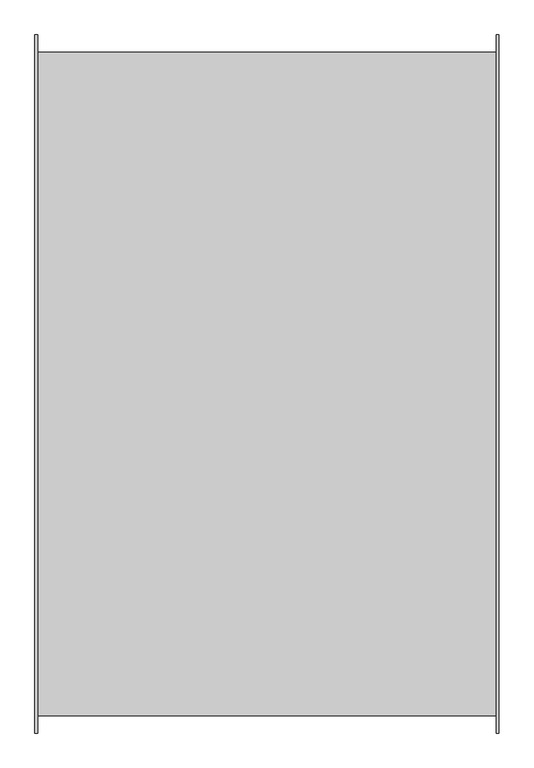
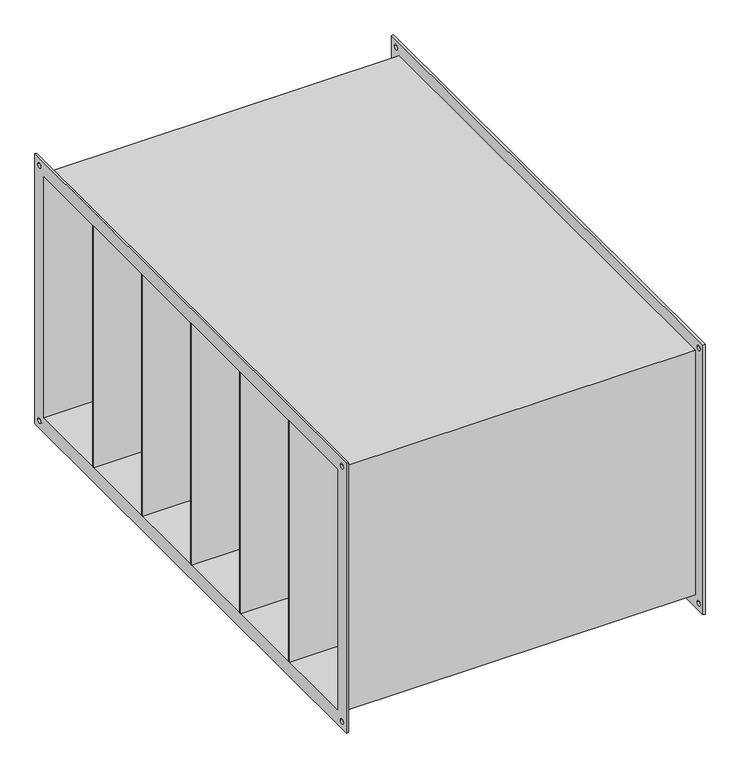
"""IFC4 building model written with IfcOpenShell, lengths in millimetres: damper geometry, СВ_ФильтрКарманный_КанальныйПрямоугольный_200-1000_SFPK : SFPK-1000x500."""

from ifc_helpers import new_model, si_unit, frame, origin, place, context, project, spatial, polyline, circle_curve, outline, extrude, source, transform, mapped, element, save
from ifc_brep_helpers import plane_surface, revolved_surface, advanced_brep


def damper_d678f62c(model_context):
    return source(origin(), model_context, "Body", "SolidModel", [
        extrude(outline(polyline([(352.5, 333.3333333), (352.5, 329.3333333), (-352.5, 329.3333333), (-352.5, 333.3333333), (352.5, 333.3333333)])), frame((0.0, 0.0, -250.0), z_axis=(0.0, 0.0, 1.0), x_axis=(1.0, 0.0, 0.0)), (0.0, 0.0, 1.0), 500.0),
        extrude(outline(polyline([(352.5, 166.6666667), (352.5, 162.6666667), (-352.5, 162.6666667), (-352.5, 166.6666667), (352.5, 166.6666667)])), frame((0.0, 0.0, -250.0), z_axis=(0.0, 0.0, 1.0), x_axis=(1.0, 0.0, 0.0)), (0.0, 0.0, 1.0), 500.0),
        extrude(outline(polyline([(352.5, 0.0), (352.5, -4.0), (-352.5, -4.0), (-352.5, 0.0), (352.5, 0.0)])), frame((0.0, 0.0, -250.0), z_axis=(0.0, 0.0, 1.0), x_axis=(1.0, 0.0, 0.0)), (0.0, 0.0, 1.0), 500.0),
        extrude(outline(polyline([(352.5, -166.6666667), (352.5, -170.6666667), (-352.5, -170.6666667), (-352.5, -166.6666667), (352.5, -166.6666667)])), frame((0.0, 0.0, -250.0), z_axis=(0.0, 0.0, 1.0), x_axis=(1.0, 0.0, 0.0)), (0.0, 0.0, 1.0), 500.0),
        extrude(outline(polyline([(352.5, -333.3333333), (352.5, -337.3333333), (-352.5, -337.3333333), (-352.5, -333.3333333), (352.5, -333.3333333)])), frame((0.0, 0.0, -250.0), z_axis=(0.0, 0.0, 1.0), x_axis=(1.0, 0.0, 0.0)), (0.0, 0.0, 1.0), 500.0),
        advanced_brep(
        [(348.5, -504.0, 254.0), (-348.5, -504.0, 254.0), (-348.5, -504.0, -254.0), (348.5, -504.0, -254.0), (-348.5, 504.0, -254.0), (348.5, 504.0, -254.0), (-348.5, 504.0, 254.0), (348.5, 504.0, 254.0), (-352.5, -530.0, 280.0), (-352.5, 530.0, 280.0), (-352.5, 530.0, -280.0), (-352.5, -530.0, -280.0), (-352.5, -500.0, 250.0), (-352.5, -500.0, -250.0), (-352.5, 500.0, -250.0), (-352.5, 500.0, 250.0), (-352.5, 510.0, 265.0), (-352.5, 520.0, 265.0), (-352.5, -520.0, 265.0), (-352.5, -510.0, 265.0), (-352.5, -520.0, -265.0), (-352.5, -510.0, -265.0), (-352.5, 510.0, -265.0), (-352.5, 520.0, -265.0), (-348.5, -530.0, 280.0), (-348.5, -530.0, -280.0), (-348.5, 530.0, -280.0), (-348.5, 530.0, 280.0), (-348.5, 520.0, 265.0), (-348.5, 510.0, 265.0), (-348.5, -510.0, 265.0), (-348.5, -520.0, 265.0), (-348.5, -510.0, -265.0), (-348.5, -520.0, -265.0), (-348.5, 520.0, -265.0), (-348.5, 510.0, -265.0), (348.5, 530.0, 280.0), (348.5, 530.0, -280.0), (348.5, -530.0, -280.0), (348.5, -530.0, 280.0), (348.5, 510.0, 265.0), (348.5, 520.0, 265.0), (348.5, -520.0, 265.0), (348.5, -510.0, 265.0), (348.5, -520.0, -265.0), (348.5, -510.0, -265.0), (348.5, 510.0, -265.0), (348.5, 520.0, -265.0), (352.5, 530.0, 280.0), (352.5, -530.0, 280.0), (352.5, -530.0, -280.0), (352.5, 530.0, -280.0), (352.5, 500.0, 250.0), (352.5, 500.0, -250.0), (352.5, -500.0, -250.0), (352.5, -500.0, 250.0), (352.5, 520.0, 265.0), (352.5, 510.0, 265.0), (352.5, -510.0, 265.0), (352.5, -520.0, 265.0), (352.5, -510.0, -265.0), (352.5, -520.0, -265.0), (352.5, 520.0, -265.0), (352.5, 510.0, -265.0)],
        [
            (0, 1),
            (1, 2),
            (2, 3),
            (3, 0),
            (2, 4),
            (4, 5),
            (5, 3),
            (4, 6),
            (6, 7),
            (7, 5),
            (0, 7),
            (6, 1),
            (8, 9),
            (9, 10),
            (10, 11),
            (11, 8),
            (12, 13),
            (13, 14),
            (14, 15),
            (15, 12),
            (16, 17, circle_curve(frame((-352.5, 515.0, 265.0), z_axis=(1.0, 0.0, 0.0), x_axis=(0.0, 1.0, 0.0)), 5.0)),
            (17, 16, circle_curve(frame((-352.5, 515.0, 265.0), z_axis=(1.0, 0.0, 0.0), x_axis=(0.0, 1.0, 0.0)), 5.0)),
            (18, 19, circle_curve(frame((-352.5, -515.0, 265.0), z_axis=(1.0, 0.0, 0.0), x_axis=(0.0, 1.0, 0.0)), 5.0)),
            (19, 18, circle_curve(frame((-352.5, -515.0, 265.0), z_axis=(1.0, 0.0, 0.0), x_axis=(0.0, 1.0, 0.0)), 5.0)),
            (20, 21, circle_curve(frame((-352.5, -515.0, -265.0), z_axis=(1.0, 0.0, 0.0), x_axis=(0.0, 1.0, 0.0)), 5.0)),
            (21, 20, circle_curve(frame((-352.5, -515.0, -265.0), z_axis=(1.0, 0.0, 0.0), x_axis=(0.0, 1.0, 0.0)), 5.0)),
            (22, 23, circle_curve(frame((-352.5, 515.0, -265.0), z_axis=(1.0, 0.0, 0.0), x_axis=(0.0, 1.0, 0.0)), 5.0)),
            (23, 22, circle_curve(frame((-352.5, 515.0, -265.0), z_axis=(1.0, 0.0, 0.0), x_axis=(0.0, 1.0, 0.0)), 5.0)),
            (24, 25),
            (25, 26),
            (26, 27),
            (27, 24),
            (28, 29, circle_curve(frame((-348.5, 515.0, 265.0), z_axis=(-1.0, 0.0, 0.0), x_axis=(0.0, 1.0, 0.0)), 5.0)),
            (29, 28, circle_curve(frame((-348.5, 515.0, 265.0), z_axis=(-1.0, 0.0, 0.0), x_axis=(0.0, 1.0, 0.0)), 5.0)),
            (30, 31, circle_curve(frame((-348.5, -515.0, 265.0), z_axis=(-1.0, 0.0, 0.0), x_axis=(0.0, 1.0, 0.0)), 5.0)),
            (31, 30, circle_curve(frame((-348.5, -515.0, 265.0), z_axis=(-1.0, 0.0, 0.0), x_axis=(0.0, 1.0, 0.0)), 5.0)),
            (32, 33, circle_curve(frame((-348.5, -515.0, -265.0), z_axis=(-1.0, 0.0, 0.0), x_axis=(0.0, 1.0, 0.0)), 5.0)),
            (33, 32, circle_curve(frame((-348.5, -515.0, -265.0), z_axis=(-1.0, 0.0, 0.0), x_axis=(0.0, 1.0, 0.0)), 5.0)),
            (34, 35, circle_curve(frame((-348.5, 515.0, -265.0), z_axis=(-1.0, 0.0, 0.0), x_axis=(0.0, 1.0, 0.0)), 5.0)),
            (35, 34, circle_curve(frame((-348.5, 515.0, -265.0), z_axis=(-1.0, 0.0, 0.0), x_axis=(0.0, 1.0, 0.0)), 5.0)),
            (11, 25),
            (24, 8),
            (10, 26),
            (9, 27),
            (36, 37),
            (37, 38),
            (38, 39),
            (39, 36),
            (40, 41, circle_curve(frame((348.5, 515.0, 265.0), z_axis=(1.0, 0.0, 0.0), x_axis=(0.0, 1.0, 0.0)), 5.0)),
            (41, 40, circle_curve(frame((348.5, 515.0, 265.0), z_axis=(1.0, 0.0, 0.0), x_axis=(0.0, 1.0, 0.0)), 5.0)),
            (42, 43, circle_curve(frame((348.5, -515.0, 265.0), z_axis=(1.0, 0.0, 0.0), x_axis=(0.0, 1.0, 0.0)), 5.0)),
            (43, 42, circle_curve(frame((348.5, -515.0, 265.0), z_axis=(1.0, 0.0, 0.0), x_axis=(0.0, 1.0, 0.0)), 5.0)),
            (44, 45, circle_curve(frame((348.5, -515.0, -265.0), z_axis=(1.0, 0.0, 0.0), x_axis=(0.0, 1.0, 0.0)), 5.0)),
            (45, 44, circle_curve(frame((348.5, -515.0, -265.0), z_axis=(1.0, 0.0, 0.0), x_axis=(0.0, 1.0, 0.0)), 5.0)),
            (46, 47, circle_curve(frame((348.5, 515.0, -265.0), z_axis=(1.0, 0.0, 0.0), x_axis=(0.0, 1.0, 0.0)), 5.0)),
            (47, 46, circle_curve(frame((348.5, 515.0, -265.0), z_axis=(1.0, 0.0, 0.0), x_axis=(0.0, 1.0, 0.0)), 5.0)),
            (48, 49),
            (49, 50),
            (50, 51),
            (51, 48),
            (52, 53),
            (53, 54),
            (54, 55),
            (55, 52),
            (56, 57, circle_curve(frame((352.5, 515.0, 265.0), z_axis=(-1.0, 0.0, 0.0), x_axis=(0.0, 1.0, 0.0)), 5.0)),
            (57, 56, circle_curve(frame((352.5, 515.0, 265.0), z_axis=(-1.0, 0.0, 0.0), x_axis=(0.0, 1.0, 0.0)), 5.0)),
            (58, 59, circle_curve(frame((352.5, -515.0, 265.0), z_axis=(-1.0, 0.0, 0.0), x_axis=(0.0, 1.0, 0.0)), 5.0)),
            (59, 58, circle_curve(frame((352.5, -515.0, 265.0), z_axis=(-1.0, 0.0, 0.0), x_axis=(0.0, 1.0, 0.0)), 5.0)),
            (60, 61, circle_curve(frame((352.5, -515.0, -265.0), z_axis=(-1.0, 0.0, 0.0), x_axis=(0.0, 1.0, 0.0)), 5.0)),
            (61, 60, circle_curve(frame((352.5, -515.0, -265.0), z_axis=(-1.0, 0.0, 0.0), x_axis=(0.0, 1.0, 0.0)), 5.0)),
            (62, 63, circle_curve(frame((352.5, 515.0, -265.0), z_axis=(-1.0, 0.0, 0.0), x_axis=(0.0, 1.0, 0.0)), 5.0)),
            (63, 62, circle_curve(frame((352.5, 515.0, -265.0), z_axis=(-1.0, 0.0, 0.0), x_axis=(0.0, 1.0, 0.0)), 5.0)),
            (39, 49),
            (48, 36),
            (38, 50),
            (37, 51),
            (15, 52),
            (55, 12),
            (14, 53),
            (13, 54),
            (16, 29),
            (28, 17),
            (40, 57),
            (56, 41),
            (18, 31),
            (30, 19),
            (42, 59),
            (58, 43),
            (20, 33),
            (32, 21),
            (44, 61),
            (60, 45),
            (22, 35),
            (34, 23),
            (46, 63),
            (62, 47),
        ],
        [
            plane_surface(frame((348.5, -504.0, 254.0), z_axis=(0.0, -1.0, 0.0), x_axis=(-1.0, 0.0, 0.0))),
            plane_surface(frame((348.5, -504.0, -254.0), z_axis=(0.0, 0.0, -1.0), x_axis=(-1.0, 0.0, 0.0))),
            plane_surface(frame((348.5, 504.0, -254.0), z_axis=(0.0, 1.0, 0.0), x_axis=(-1.0, 0.0, 0.0))),
            plane_surface(frame((348.5, 504.0, 254.0), z_axis=(0.0, 0.0, 1.0), x_axis=(-1.0, 0.0, 0.0))),
            plane_surface(frame((-352.5, -530.0, 280.0), z_axis=(-1.0, 0.0, 0.0), x_axis=(0.0, 0.0, 1.0))),
            plane_surface(frame((-348.5, -530.0, 280.0), z_axis=(1.0, 0.0, 0.0), x_axis=(0.0, 0.0, -1.0))),
            plane_surface(frame((-348.5, -530.0, 280.0), z_axis=(0.0, -1.0, 0.0), x_axis=(-1.0, 0.0, 0.0))),
            plane_surface(frame((-348.5, -530.0, -280.0), z_axis=(0.0, 0.0, -1.0), x_axis=(-1.0, 0.0, 0.0))),
            plane_surface(frame((-348.5, 530.0, -280.0), z_axis=(0.0, 1.0, 0.0), x_axis=(-1.0, 0.0, 0.0))),
            plane_surface(frame((-348.5, 530.0, 280.0), z_axis=(0.0, 0.0, 1.0), x_axis=(-1.0, 0.0, 0.0))),
            plane_surface(frame((348.5, 500.0, -250.0), z_axis=(-1.0, 0.0, 0.0), x_axis=(0.0, 0.0, 1.0))),
            plane_surface(frame((352.5, 500.0, -250.0), z_axis=(1.0, 0.0, 0.0), x_axis=(0.0, 0.0, -1.0))),
            plane_surface(frame((352.5, 530.0, 280.0), z_axis=(0.0, 0.0, 1.0), x_axis=(-1.0, 0.0, 0.0))),
            plane_surface(frame((352.5, -530.0, 280.0), z_axis=(0.0, -1.0, 0.0), x_axis=(-1.0, 0.0, 0.0))),
            plane_surface(frame((352.5, -530.0, -280.0), z_axis=(0.0, 0.0, -1.0), x_axis=(-1.0, 0.0, 0.0))),
            plane_surface(frame((352.5, 530.0, -280.0), z_axis=(0.0, 1.0, 0.0), x_axis=(-1.0, 0.0, 0.0))),
            plane_surface(frame((-348.5, -500.0, 250.0), z_axis=(0.0, 0.0, -1.0), x_axis=(-1.0, 0.0, 0.0))),
            plane_surface(frame((-348.5, 500.0, 250.0), z_axis=(0.0, -1.0, 0.0), x_axis=(-1.0, 0.0, 0.0))),
            plane_surface(frame((-348.5, 500.0, -250.0), z_axis=(0.0, 0.0, 1.0), x_axis=(-1.0, 0.0, 0.0))),
            plane_surface(frame((-348.5, -500.0, -250.0), z_axis=(0.0, 1.0, 0.0), x_axis=(-1.0, 0.0, 0.0))),
            revolved_surface(polyline([(-348.5, 520.0, 265.0), (-352.5, 520.0, 265.0)]), (-352.5, 515.0, 265.0), (1.0, 0.0, 0.0)),
            revolved_surface(polyline([(352.5, 520.0, 265.0), (348.5, 520.0, 265.0)]), (-352.5, 515.0, 265.0), (1.0, 0.0, 0.0)),
            revolved_surface(polyline([(-348.5, -510.0, 265.0), (-352.5, -510.0, 265.0)]), (0.0, -515.0, 265.0), (1.0, 0.0, 0.0)),
            revolved_surface(polyline([(352.5, -510.0, 265.0), (348.5, -510.0, 265.0)]), (0.0, -515.0, 265.0), (1.0, 0.0, 0.0)),
            revolved_surface(polyline([(-348.5, -510.0, -265.0), (-352.5, -510.0, -265.0)]), (0.0, -515.0, -265.0), (1.0, 0.0, 0.0)),
            revolved_surface(polyline([(352.5, -510.0, -265.0), (348.5, -510.0, -265.0)]), (0.0, -515.0, -265.0), (1.0, 0.0, 0.0)),
            revolved_surface(polyline([(-348.5, 520.0, -265.0), (-352.5, 520.0, -265.0)]), (0.0, 515.0, -265.0), (1.0, 0.0, 0.0)),
            revolved_surface(polyline([(352.5, 520.0, -265.0), (348.5, 520.0, -265.0)]), (0.0, 515.0, -265.0), (1.0, 0.0, 0.0)),
        ],
        [
            (0, [[1, 2, 3, 4]]),
            (1, [[-3, 5, 6, 7]]),
            (2, [[-6, 8, 9, 10]]),
            (3, [[-1, 11, -9, 12]]),
            (4, [[13, 14, 15, 16], [17, 18, 19, 20], [21, 22], [23, 24], [25, 26], [27, 28]]),
            (5, [[29, 30, 31, 32], [-2, -12, -8, -5], [33, 34], [35, 36], [37, 38], [39, 40]]),
            (6, [[-16, 41, -29, 42]]),
            (7, [[-15, 43, -30, -41]]),
            (8, [[-14, 44, -31, -43]]),
            (9, [[-13, -42, -32, -44]]),
            (10, [[45, 46, 47, 48], [-4, -7, -10, -11], [49, 50], [51, 52], [53, 54], [55, 56]]),
            (11, [[57, 58, 59, 60], [61, 62, 63, 64], [65, 66], [67, 68], [69, 70], [71, 72]]),
            (12, [[-48, 73, -57, 74]]),
            (13, [[-47, 75, -58, -73]]),
            (14, [[-46, 76, -59, -75]]),
            (15, [[-45, -74, -60, -76]]),
            (16, [[-20, 77, -64, 78]]),
            (17, [[-77, -19, 79, -61]]),
            (18, [[-79, -18, 80, -62]]),
            (19, [[-80, -17, -78, -63]]),
            (20, [[81, -33, 82, -21]]),
            (21, [[83, -65, 84, -49]]),
            (20, [[-81, -22, -82, -34]]),
            (21, [[-83, -50, -84, -66]]),
            (22, [[85, -35, 86, -23]]),
            (23, [[87, -67, 88, -51]]),
            (22, [[-85, -24, -86, -36]]),
            (23, [[-87, -52, -88, -68]]),
            (24, [[89, -37, 90, -25]]),
            (25, [[91, -69, 92, -53]]),
            (24, [[-89, -26, -90, -38]]),
            (25, [[-91, -54, -92, -70]]),
            (26, [[93, -39, 94, -27]]),
            (27, [[95, -71, 96, -55]]),
            (26, [[-93, -28, -94, -40]]),
            (27, [[-95, -56, -96, -72]]),
        ],
    ),
    ])


if __name__ == "__main__":
    model = new_model("IFC4")
    model_context = context("Model", 3, world=origin())
    ifc_project = project(units=[si_unit("LENGTHUNIT", "METRE", prefix="MILLI")], contexts=[model_context])
    site = spatial("IfcSite", under=ifc_project)
    building = spatial("IfcBuilding", under=site)
    placement = place(None, origin())
    damper_shape = damper_d678f62c(model_context)
    element("IfcDamper", 1, ObjectType="СВ_ФильтрКарманный_КанальныйПрямоугольный_200-1000_SFPK : SFPK-1000x500", at=placement, inside=building, context=model_context, shape_type="MappedRepresentation", body=[
        mapped(damper_shape, transform((0.0, 0.0, 0.0), x_axis=(1.0, 0.0, 0.0), y_axis=(0.0, 1.0, 0.0), z_axis=(0.0, 0.0, 1.0))),
    ])
    save(model, "model.ifc")
